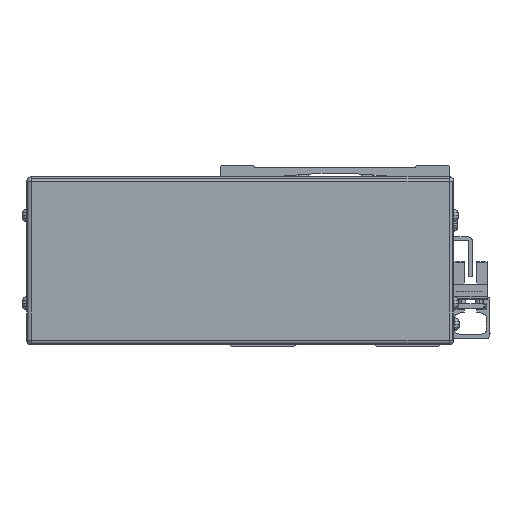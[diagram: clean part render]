
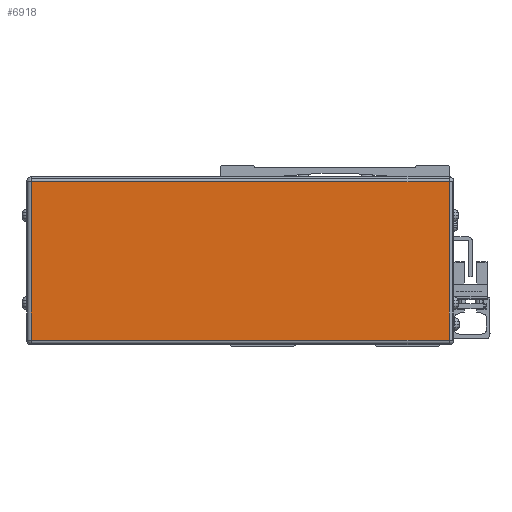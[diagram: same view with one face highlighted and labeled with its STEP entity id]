
A CAD part, front view. The second image highlights one B-rep face of the part: STEP entity #6918.
In plain terms, the highlighted planar face has unit normal (0, -1, 0).
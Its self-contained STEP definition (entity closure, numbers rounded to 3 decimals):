
#6918=ADVANCED_FACE('',(#14129),#14130,.F.);
#14129=FACE_OUTER_BOUND('',#23159,.T.);
#14130=PLANE('',#23160);
#23159=EDGE_LOOP('',(#42830,#42831,#42832,#42833));
#23160=AXIS2_PLACEMENT_3D('',#42834,#42835,#42836);
#42830=ORIENTED_EDGE('',*,*,#53970,.T.);
#42831=ORIENTED_EDGE('',*,*,#49871,.T.);
#42832=ORIENTED_EDGE('',*,*,#54359,.T.);
#42833=ORIENTED_EDGE('',*,*,#47663,.T.);
#42834=CARTESIAN_POINT('',(-39.,-13.778,-42.5));
#42835=DIRECTION('',(0.0,1.0,-0.0));
#42836=DIRECTION('',(-1.0,0.0,0.0));
#47663=EDGE_CURVE('',#54884,#57376,#57378,.T.);
#49871=EDGE_CURVE('',#60991,#57457,#60992,.T.);
#53970=EDGE_CURVE('',#57376,#60991,#66602,.T.);
#54359=EDGE_CURVE('',#57457,#54884,#67033,.T.);
#54884=VERTEX_POINT('',#67601);
#57376=VERTEX_POINT('',#71160);
#57378=LINE('',#71162,#71163);
#57457=VERTEX_POINT('',#71265);
#60991=VERTEX_POINT('',#76471);
#60992=LINE('',#76472,#76473);
#66602=LINE('',#84911,#84912);
#67033=LINE('',#85563,#85564);
#67601=CARTESIAN_POINT('',(-124.7,-13.778,24.5));
#71160=CARTESIAN_POINT('',(-124.7,-13.778,-40.5));
#71162=CARTESIAN_POINT('',(-124.7,-13.778,-42.5));
#71163=VECTOR('',#87955,10.0);
#71265=CARTESIAN_POINT('',(46.7,-13.778,24.5));
#76471=CARTESIAN_POINT('',(46.7,-13.778,-40.5));
#76472=CARTESIAN_POINT('',(46.7,-13.778,-42.5));
#76473=VECTOR('',#90674,10.0);
#84911=CARTESIAN_POINT('',(-39.,-13.778,-40.5));
#84912=VECTOR('',#95281,10.0);
#85563=CARTESIAN_POINT('',(-39.,-13.778,24.5));
#85564=VECTOR('',#95570,10.0);
#87955=DIRECTION('',(-0.0,0.0,-1.0));
#90674=DIRECTION('',(0.0,0.0,1.0));
#95281=DIRECTION('',(1.0,0.0,0.0));
#95570=DIRECTION('',(-1.0,0.0,0.0));
